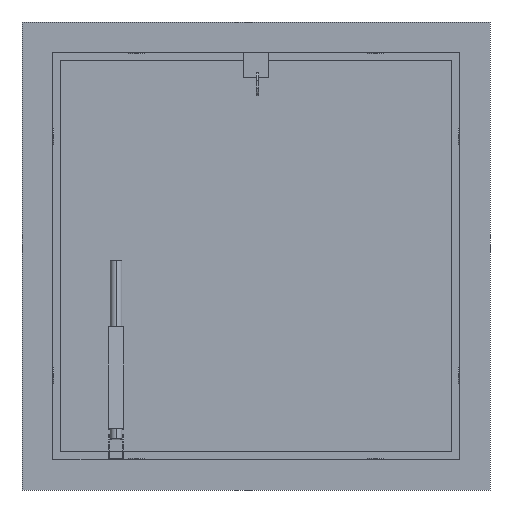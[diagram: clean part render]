
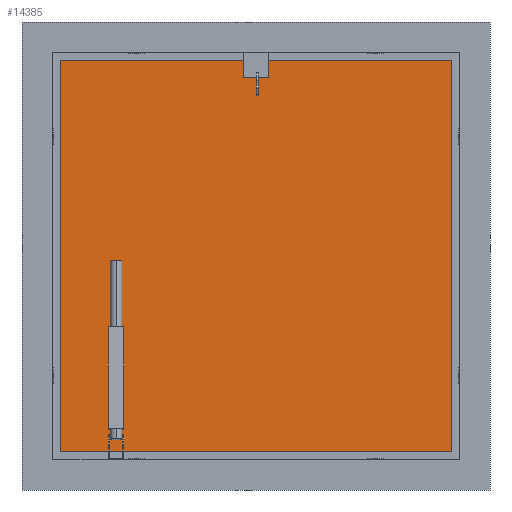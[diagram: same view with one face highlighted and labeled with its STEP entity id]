
A CAD part, front view. The second image highlights one B-rep face of the part: STEP entity #14385.
In plain terms, the highlighted planar face has unit normal (0, -1, 0).
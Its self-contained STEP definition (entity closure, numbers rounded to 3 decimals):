
#5834=DIRECTION('',(0.,0.,-1.));
#5835=VECTOR('',#5834,848.);
#5836=CARTESIAN_POINT('',(424.,74.,415.));
#5837=LINE('',#5836,#5835);
#5842=DIRECTION('',(0.,0.,-1.));
#5843=VECTOR('',#5842,30.);
#5844=CARTESIAN_POINT('',(0.,74.,345.));
#5845=LINE('',#5844,#5843);
#5846=DIRECTION('',(1.,0.,0.));
#5847=VECTOR('',#5846,5.);
#5848=CARTESIAN_POINT('',(0.,74.,315.));
#5849=LINE('',#5848,#5847);
#5850=DIRECTION('',(0.,0.,-1.));
#5851=VECTOR('',#5850,30.);
#5852=CARTESIAN_POINT('',(5.,74.,345.));
#5853=LINE('',#5852,#5851);
#5854=DIRECTION('',(1.,0.,0.));
#5855=VECTOR('',#5854,5.);
#5856=CARTESIAN_POINT('',(0.,74.,345.));
#5857=LINE('',#5856,#5855);
#5858=DIRECTION('',(-1.,0.,0.));
#5859=VECTOR('',#5858,848.);
#5860=CARTESIAN_POINT('',(424.,74.,-433.));
#5861=LINE('',#5860,#5859);
#5866=DIRECTION('',(0.,0.,1.));
#5867=VECTOR('',#5866,848.);
#5868=CARTESIAN_POINT('',(-424.,74.,-433.));
#5869=LINE('',#5868,#5867);
#5874=DIRECTION('',(1.,0.,0.));
#5875=VECTOR('',#5874,848.);
#5876=CARTESIAN_POINT('',(-424.,74.,415.));
#5877=LINE('',#5876,#5875);
#11315=CARTESIAN_POINT('',(424.,74.,415.));
#11316=CARTESIAN_POINT('',(424.,74.,-433.));
#11317=VERTEX_POINT('',#11315);
#11318=VERTEX_POINT('',#11316);
#11319=CARTESIAN_POINT('',(-424.,74.,-433.));
#11320=VERTEX_POINT('',#11319);
#11321=CARTESIAN_POINT('',(-424.,74.,415.));
#11322=VERTEX_POINT('',#11321);
#11339=CARTESIAN_POINT('',(0.,74.,345.));
#11340=VERTEX_POINT('',#11339);
#11342=CARTESIAN_POINT('',(0.,74.,315.));
#11344=VERTEX_POINT('',#11342);
#11345=CARTESIAN_POINT('',(5.,74.,345.));
#11346=VERTEX_POINT('',#11345);
#11348=CARTESIAN_POINT('',(5.,74.,315.));
#11350=VERTEX_POINT('',#11348);
#14361=CARTESIAN_POINT('',(0.,74.,0.));
#14362=DIRECTION('',(0.,1.,0.));
#14363=DIRECTION('',(1.,0.,0.));
#14364=AXIS2_PLACEMENT_3D('',#14361,#14362,#14363);
#14365=PLANE('',#14364);
#14366=ORIENTED_EDGE('',*,*,#14351,.T.);
#14368=ORIENTED_EDGE('',*,*,#14367,.T.);
#14370=ORIENTED_EDGE('',*,*,#14369,.T.);
#14372=ORIENTED_EDGE('',*,*,#14371,.T.);
#14373=EDGE_LOOP('',(#14366,#14368,#14370,#14372));
#14374=FACE_OUTER_BOUND('',#14373,.F.);
#14376=ORIENTED_EDGE('',*,*,#14375,.T.);
#14378=ORIENTED_EDGE('',*,*,#14377,.T.);
#14380=ORIENTED_EDGE('',*,*,#14379,.F.);
#14382=ORIENTED_EDGE('',*,*,#14381,.F.);
#14383=EDGE_LOOP('',(#14376,#14378,#14380,#14382));
#14384=FACE_BOUND('',#14383,.F.);
#14351=EDGE_CURVE('',#11317,#11318,#5837,.T.);
#14367=EDGE_CURVE('',#11318,#11320,#5861,.T.);
#14369=EDGE_CURVE('',#11320,#11322,#5869,.T.);
#14371=EDGE_CURVE('',#11322,#11317,#5877,.T.);
#14375=EDGE_CURVE('',#11340,#11344,#5845,.T.);
#14377=EDGE_CURVE('',#11344,#11350,#5849,.T.);
#14379=EDGE_CURVE('',#11346,#11350,#5853,.T.);
#14381=EDGE_CURVE('',#11340,#11346,#5857,.T.);
#14385=ADVANCED_FACE('',(#14374,#14384),#14365,.F.);
